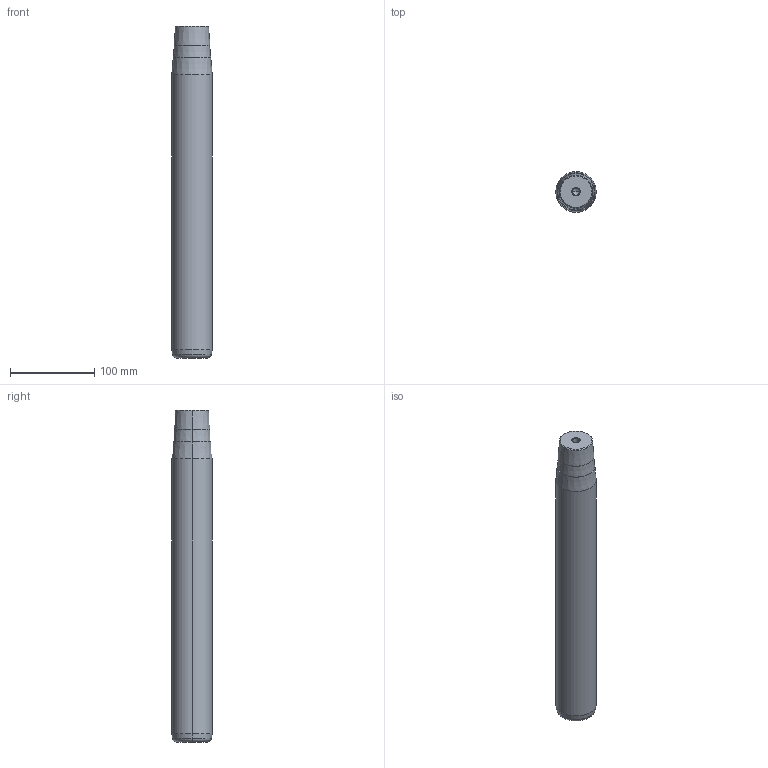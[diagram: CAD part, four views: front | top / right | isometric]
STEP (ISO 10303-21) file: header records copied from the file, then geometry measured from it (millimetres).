
FILE_DESCRIPTION(('CATIA V5 STEP Exchange'),'2;1');
FILE_NAME('C:\Users\Utente\Desktop\IO LAVORO\3D X SITO CF\X SITO\722\722-48x355x395.stp','2021-01-08T14:58:59+00:00',('none'),('none'),'CATIA Version 5 Release 20 GA (IN-10)','CATIA V5 STEP AP203','none');
FILE_SCHEMA(('CONFIG_CONTROL_DESIGN'));
Length unit declared in the file: millimetre
Products named in the file (1): 722-48x355x395
Bounding box: 48 x 48 x 395 mm (x, y, z)
Volume: 691947.3 mm3; surface area: 62699.4 mm2
Topology: 1 solids, 1 shells, 32 faces, 66 edges, 34 vertices
Faces by surface type: cone 22, cylinder 6, plane 2, torus 2
Entity records: 854 total; most frequent: CARTESIAN_POINT 175, DIRECTION 124, ORIENTED_EDGE 124, AXIS2_PLACEMENT_3D 65, EDGE_CURVE 62, EDGE_LOOP 34, VERTEX_POINT 34, ADVANCED_FACE 32
